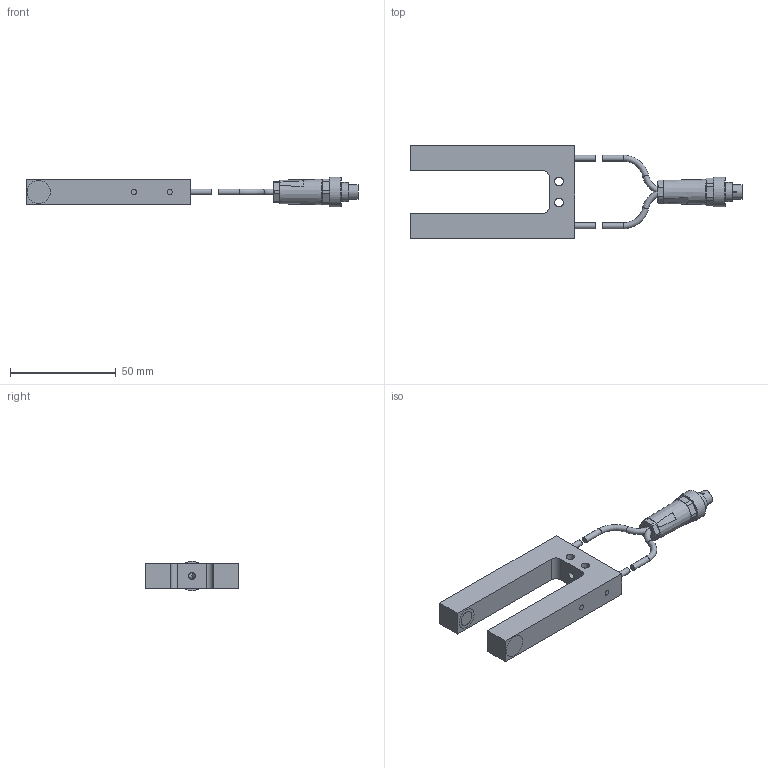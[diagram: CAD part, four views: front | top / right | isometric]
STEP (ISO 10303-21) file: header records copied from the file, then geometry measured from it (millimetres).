
FILE_DESCRIPTION(/* description */ (''),/* implementation_level */ '2;1');
FILE_NAME(/* name */ 'H:\ZVW\Inventor\E-Mail-Zeichnungen\STEP\HOMEPAGE\A-LAS-F12-...-20_60-C_0720_00.stp',/* time_stamp */ '2014-08-18T16:18:54+02:00',/* author */ ('TK-01'),/* organization */ (''),/* preprocessor_version */ 'ST-DEVELOPER v15.2',/* originating_system */ 'Autodesk Inventor 2014',/* authorisation */ '');
FILE_SCHEMA (('AUTOMOTIVE_DESIGN { 1 0 10303 214 3 1 1 }'));
Length unit declared in the file: millimetre
Products named in the file (1): Bauteil13
Bounding box: 157.1 x 44 x 14 mm (x, y, z)
Surface area: 39940.8 mm2
Topology: 8 solids, 12 shells, 158 faces, 336 edges, 220 vertices
Faces by surface type: plane 72, cylinder 59, cone 11, sphere 9, torus 5, bspline 2
Full cylindrical faces by diameter (mm): 0.5 x7, 2.5 x8, 2.8 x5, 2.9 x2, 3.2 x1, 4.1 x2, 5.5 x1, 6 x1, 6.8 x1, 7.1 x1, 7.15 x2, 7.5 x1, 8 x1, 9 x2, 10 x2, 14 x1
Entity records: 4091 total; most frequent: CARTESIAN_POINT 789, DIRECTION 686, ORIENTED_EDGE 508, AXIS2_PLACEMENT_3D 300, EDGE_CURVE 250, EDGE_LOOP 248, VERTEX_POINT 192, ADVANCED_FACE 158
